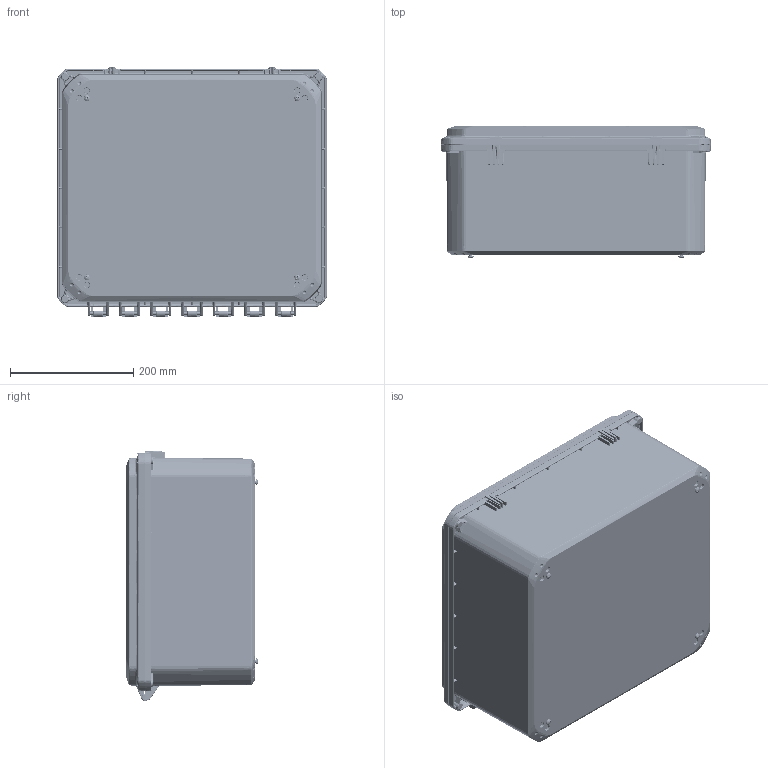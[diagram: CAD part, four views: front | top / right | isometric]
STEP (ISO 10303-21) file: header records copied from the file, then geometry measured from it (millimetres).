
FILE_DESCRIPTION (( 'STEP AP214' ), '1' );
FILE_NAME ('ZH-161407-93.STEP', '2024-06-17T12:05:45', ( '' ), ( '' ), 'SwSTEP 2.0', 'SolidWorks 2024', '' );
FILE_SCHEMA (( 'AUTOMOTIVE_DESIGN' ));
Length unit declared in the file: inch
Products named in the file (10): Z_-16141CG_ZH-16141CG-02; SCREWS-046_SCREWS-046; SCREWS-049_SCREWS-049; INSERTS-4; Z_-16147B_ZH-16147B-01; ZH-161407-93; LABEL-104; ZH-1614G; Z_-16141C_ZH-16141C-02; Z_-16147BI_ZH-16147BI-01
Assembly tree (26 placements, depth 3):
  ZH-161407-93
    Z_-16147BI_ZH-16147BI-01
      Z_-16147B_ZH-16147B-01
      INSERTS-4  x12
      LABEL-104
    Z_-16141CG_ZH-16141CG-02
      Z_-16141C_ZH-16141C-02
      ZH-1614G
    SCREWS-046_SCREWS-046  x4
    SCREWS-049_SCREWS-049  x4
Bounding box: 437.9 x 214.55 x 406.27 mm (x, y, z)
Volume: 3130055.9 mm3; surface area: 1453082.4 mm2
Topology: 24 solids, 24 shells, 7331 faces, 17947 edges, 10662 vertices
Faces by surface type: bspline 1812, cylinder 1711, plane 1618, cone 1232, torus 756, sphere 202
Entity records: 286277 total; most frequent: CARTESIAN_POINT 165390, ORIENTED_EDGE 27616, DIRECTION 22936, EDGE_CURVE 13808, AXIS2_PLACEMENT_3D 9454, VERTEX_POINT 8089, EDGE_LOOP 6057, ADVANCED_FACE 5875
